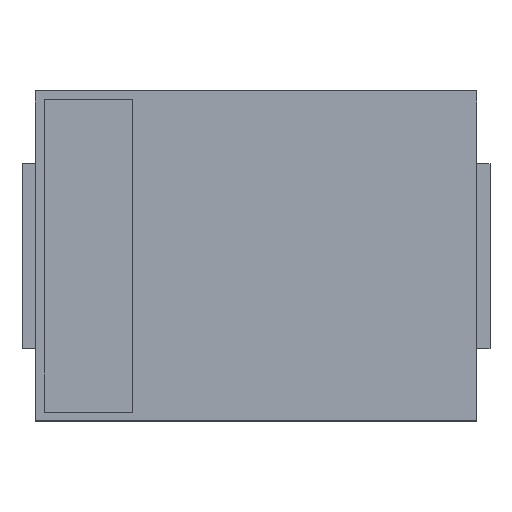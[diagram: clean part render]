
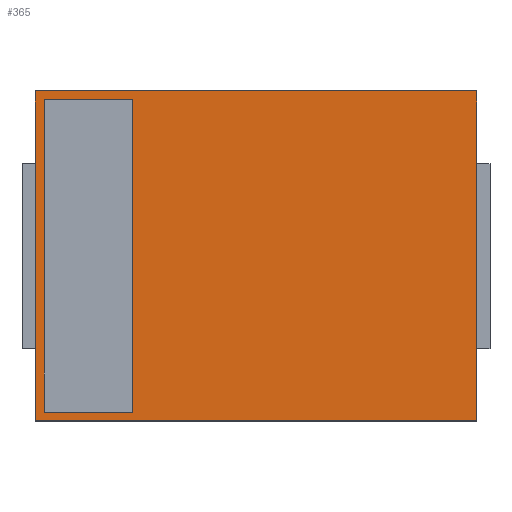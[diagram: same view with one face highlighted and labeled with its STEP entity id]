
A CAD part, top view. The second image highlights one B-rep face of the part: STEP entity #365.
In plain terms, the highlighted planar face has unit normal (0, 0, 1).
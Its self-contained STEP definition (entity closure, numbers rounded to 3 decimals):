
#365=ADVANCED_FACE('',(#371),#366,.F.);
#366=PLANE('',#367);
#367=AXIS2_PLACEMENT_3D('',#368,#369,#370);
#368=CARTESIAN_POINT('Origin',(-2.636,-1.97,2.4));
#369=DIRECTION('center_axis',(0.0,0.0,-1.0));
#370=DIRECTION('ref_axis',(0.,1.,0.));
#371=FACE_OUTER_BOUND('',#372,.T.);
#372=EDGE_LOOP('',(#373,#383,#393,#403));
#373=ORIENTED_EDGE('',*,*,#374,.F.);
#374=EDGE_CURVE('',#375,#377,#379,.T.);
#375=VERTEX_POINT('',#376);
#376=CARTESIAN_POINT('',(2.636,-1.97,2.4));
#377=VERTEX_POINT('',#378);
#378=CARTESIAN_POINT('',(-2.636,-1.97,2.4));
#379=LINE('',#380,#381);
#380=CARTESIAN_POINT('',(2.636,-1.97,2.4));
#381=VECTOR('',#382,5.272);
#382=DIRECTION('',(-1.0,0.0,0.0));
#383=ORIENTED_EDGE('',*,*,#384,.F.);
#384=EDGE_CURVE('',#385,#387,#389,.T.);
#385=VERTEX_POINT('',#386);
#386=CARTESIAN_POINT('',(2.636,1.97,2.4));
#387=VERTEX_POINT('',#376);
#389=LINE('',#390,#391);
#390=CARTESIAN_POINT('',(2.636,1.97,2.4));
#391=VECTOR('',#392,3.94);
#392=DIRECTION('',(0.0,-1.0,0.0));
#393=ORIENTED_EDGE('',*,*,#394,.F.);
#394=EDGE_CURVE('',#395,#397,#399,.T.);
#395=VERTEX_POINT('',#396);
#396=CARTESIAN_POINT('',(-2.636,1.97,2.4));
#397=VERTEX_POINT('',#386);
#399=LINE('',#400,#401);
#400=CARTESIAN_POINT('',(-2.636,1.97,2.4));
#401=VECTOR('',#402,5.272);
#402=DIRECTION('',(1.0,0.0,0.0));
#403=ORIENTED_EDGE('',*,*,#404,.F.);
#404=EDGE_CURVE('',#405,#407,#409,.T.);
#405=VERTEX_POINT('',#378);
#407=VERTEX_POINT('',#396);
#409=LINE('',#410,#411);
#410=CARTESIAN_POINT('',(-2.636,-1.97,2.4));
#411=VECTOR('',#412,3.94);
#412=DIRECTION('',(0.0,1.0,0.0));
